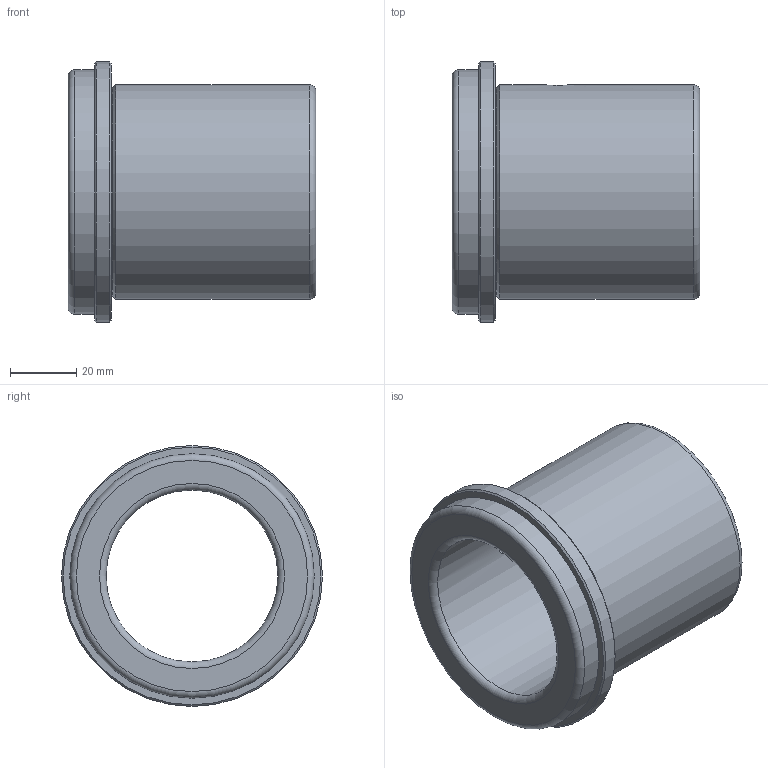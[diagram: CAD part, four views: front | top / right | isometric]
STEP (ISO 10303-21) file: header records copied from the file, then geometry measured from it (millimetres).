
FILE_DESCRIPTION( ( 'STEP AP214' ), '1' );
FILE_NAME( 'p:/temp/worker_889/temp/exporttempdir_4552_497_NTVcu/format_0/WZ - 4032 52 x 75.stp', '2020-12-03T19:43:22', ( 'License CC BY-ND 4.0' ), ( 'CADENAS' ), ' ', 'PARTsolutions', ' ' );
FILE_SCHEMA( ( 'AUTOMOTIVE_DESIGN { 1 0 10303 214 1 1 1 1 }' ) );
Length unit declared in the file: millimetre
Products named in the file (1): _WZ - 4032 52 x 75
Bounding box: 75 x 79 x 79 mm (x, y, z)
Volume: 103752 mm3; surface area: 33395.1 mm2
Topology: 1 solids, 1 shells, 19 faces, 34 edges, 20 vertices
Faces by surface type: cylinder 6, plane 5, torus 4, cone 4
Full cylindrical faces by diameter (mm): 8 x1, 52 x1, 63 x1, 65 x1, 74 x1, 79 x1
Entity records: 694 total; most frequent: CARTESIAN_POINT 190, DIRECTION 76, EDGE_LOOP 40, ORIENTED_EDGE 40, AXIS2_PLACEMENT_3D 38, FACE_OUTER_BOUND 29, EDGE_CURVE 20, VERTEX_POINT 20
